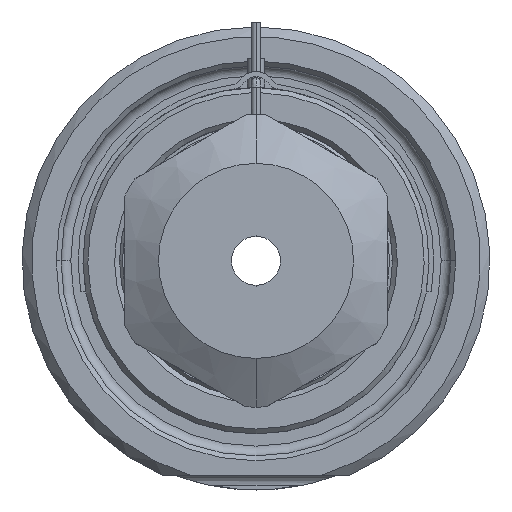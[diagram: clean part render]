
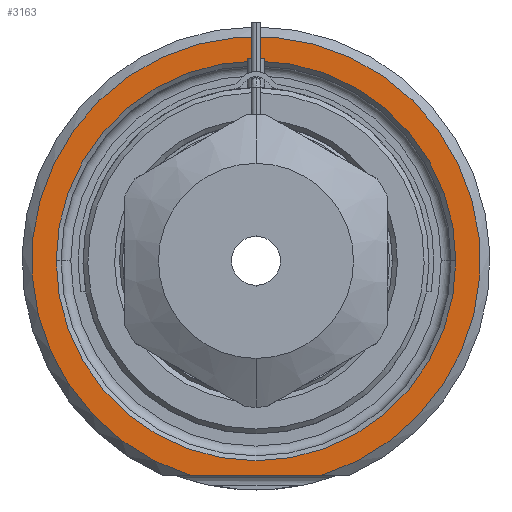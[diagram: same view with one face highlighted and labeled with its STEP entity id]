
A CAD part, front view. The second image highlights one B-rep face of the part: STEP entity #3163.
In plain terms, the highlighted planar face has unit normal (0, -1, 0).
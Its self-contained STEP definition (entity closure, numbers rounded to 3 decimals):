
#1=DIRECTION('',(1.,0.,0.));
#2=VECTOR('',#1,13.416);
#3=CARTESIAN_POINT('',(-6.708,0.,-22.));
#4=LINE('',#3,#2);
#5=CARTESIAN_POINT('',(0.,0.,0.));
#6=DIRECTION('',(0.,1.,0.));
#7=DIRECTION('',(-1.,0.,0.));
#8=AXIS2_PLACEMENT_3D('',#5,#6,#7);
#10=CARTESIAN_POINT('',(0.,0.,0.));
#11=DIRECTION('',(0.,1.,0.));
#12=DIRECTION('',(1.,0.,0.));
#13=AXIS2_PLACEMENT_3D('',#10,#11,#12);
#121=CARTESIAN_POINT('',(0.,0.,0.));
#122=DIRECTION('',(0.,-1.,0.));
#123=DIRECTION('',(0.292,0.,-0.957));
#124=AXIS2_PLACEMENT_3D('',#121,#122,#123);
#2617=CARTESIAN_POINT('',(-20.5,0.,0.));
#2618=CARTESIAN_POINT('',(20.5,0.,0.));
#2619=VERTEX_POINT('',#2617);
#2620=VERTEX_POINT('',#2618);
#2657=CARTESIAN_POINT('',(-6.708,0.,-22.));
#2658=CARTESIAN_POINT('',(6.708,0.,-22.));
#2659=VERTEX_POINT('',#2657);
#2660=VERTEX_POINT('',#2658);
#3146=CARTESIAN_POINT('',(0.,0.,0.));
#3147=DIRECTION('',(0.,-1.,0.));
#3148=DIRECTION('',(1.,0.,0.));
#3149=AXIS2_PLACEMENT_3D('',#3146,#3147,#3148);
#3150=PLANE('',#3149);
#3152=ORIENTED_EDGE('',*,*,#3151,.F.);
#3154=ORIENTED_EDGE('',*,*,#3153,.F.);
#3155=EDGE_LOOP('',(#3152,#3154));
#3156=FACE_OUTER_BOUND('',#3155,.F.);
#3158=ORIENTED_EDGE('',*,*,#3157,.F.);
#3160=ORIENTED_EDGE('',*,*,#3159,.F.);
#3161=EDGE_LOOP('',(#3158,#3160));
#3162=FACE_BOUND('',#3161,.F.);
#3163=ADVANCED_FACE('',(#3156,#3162),#3150,.T.);
#9=CIRCLE('',#8,20.5);
#14=CIRCLE('',#13,20.5);
#125=CIRCLE('',#124,23.);
#3151=EDGE_CURVE('',#2659,#2660,#4,.T.);
#3153=EDGE_CURVE('',#2660,#2659,#125,.T.);
#3157=EDGE_CURVE('',#2619,#2620,#9,.T.);
#3159=EDGE_CURVE('',#2620,#2619,#14,.T.);
